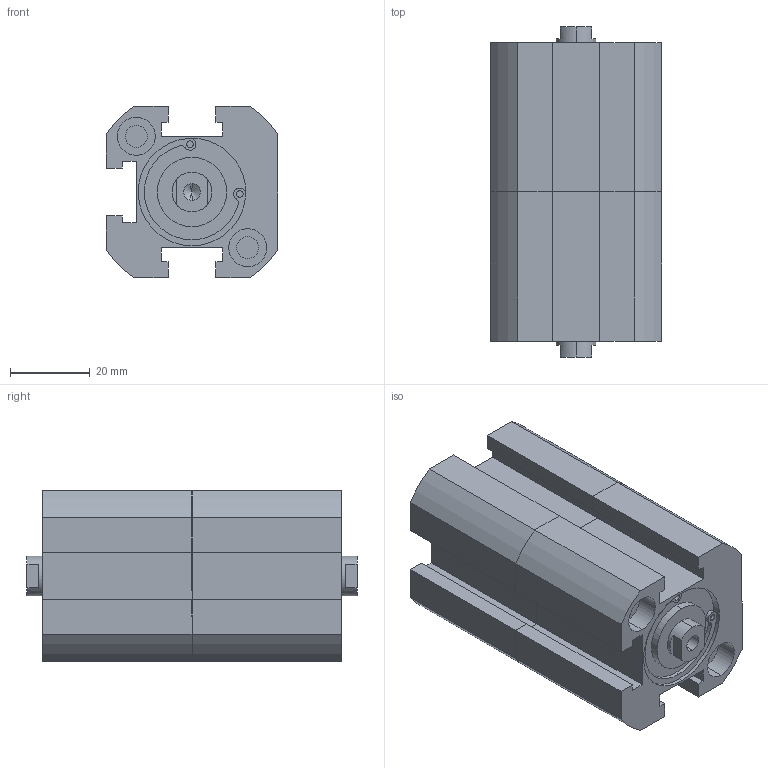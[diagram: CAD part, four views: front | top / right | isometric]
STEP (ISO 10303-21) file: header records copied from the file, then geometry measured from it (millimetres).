
FILE_DESCRIPTION (( 'STEP AP203' ), '1' );
FILE_NAME ('XGD7-25-10-10.STEP', '2016-08-05T01:43:03', ( '' ), ( '' ), 'SwSTEP 2.0', 'SolidWorks 2014', '' );
FILE_SCHEMA (( 'CONFIG_CONTROL_DESIGN' ));
Length unit declared in the file: millimetre
Products named in the file (2): XG#2-25-10; XGD7-25-10-10
Assembly tree (2 placements, depth 2):
  XGD7-25-10-10
    XG#2-25-10  x2
Bounding box: 43 x 83 x 43 mm (x, y, z)
Volume: 102136.9 mm3; surface area: 27363.5 mm2
Topology: 2 solids, 2 shells, 184 faces, 470 edges, 302 vertices
Faces by surface type: plane 88, cylinder 84, cone 12
Entity records: 2997 total; most frequent: DIRECTION 511, CARTESIAN_POINT 477, ORIENTED_EDGE 458, EDGE_CURVE 229, AXIS2_PLACEMENT_3D 185, VERTEX_POINT 151, VECTOR 141, LINE 141
